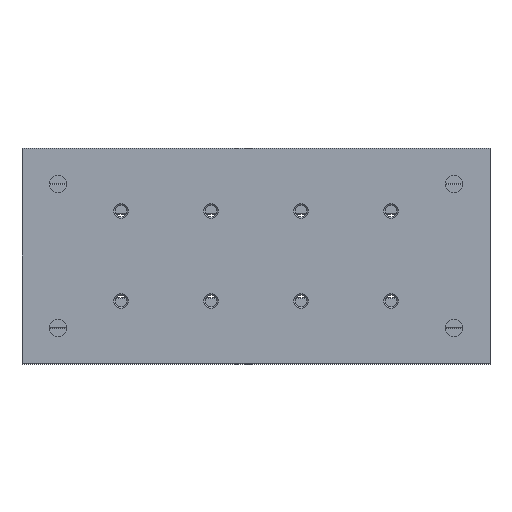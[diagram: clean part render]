
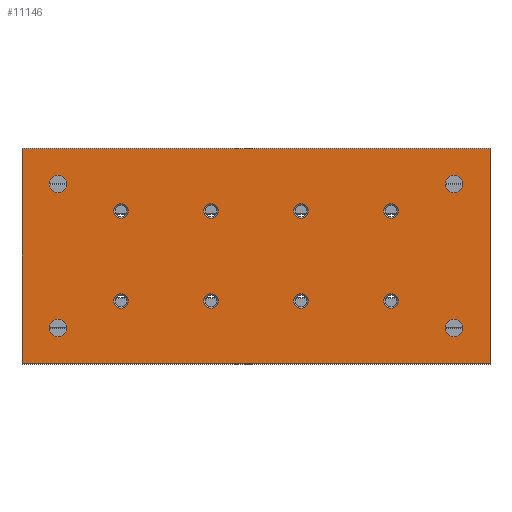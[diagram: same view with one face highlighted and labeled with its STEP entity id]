
A CAD part, front view. The second image highlights one B-rep face of the part: STEP entity #11146.
In plain terms, the highlighted planar face has unit normal (0, -1, 0).
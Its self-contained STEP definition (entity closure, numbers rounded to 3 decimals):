
#378=CIRCLE('',#11810,2.);
#379=CIRCLE('',#11811,2.);
#380=CIRCLE('',#11812,2.);
#381=CIRCLE('',#11813,2.);
#382=CIRCLE('',#11814,2.);
#383=CIRCLE('',#11815,2.);
#384=CIRCLE('',#11816,2.);
#385=CIRCLE('',#11817,2.);
#386=CIRCLE('',#11818,2.4);
#387=CIRCLE('',#11819,2.4);
#388=CIRCLE('',#11820,2.4);
#389=CIRCLE('',#11821,2.4);
#1134=ORIENTED_EDGE('',*,*,#4523,.F.);
#1135=ORIENTED_EDGE('',*,*,#4524,.F.);
#1136=ORIENTED_EDGE('',*,*,#4525,.F.);
#1137=ORIENTED_EDGE('',*,*,#4526,.F.);
#1138=ORIENTED_EDGE('',*,*,#4527,.F.);
#1139=ORIENTED_EDGE('',*,*,#4528,.F.);
#1140=ORIENTED_EDGE('',*,*,#4529,.F.);
#1141=ORIENTED_EDGE('',*,*,#4530,.F.);
#1142=ORIENTED_EDGE('',*,*,#4531,.T.);
#1143=ORIENTED_EDGE('',*,*,#4532,.F.);
#1144=ORIENTED_EDGE('',*,*,#4533,.F.);
#1145=ORIENTED_EDGE('',*,*,#4534,.F.);
#1146=ORIENTED_EDGE('',*,*,#4497,.T.);
#1147=ORIENTED_EDGE('',*,*,#4535,.F.);
#1148=ORIENTED_EDGE('',*,*,#4536,.F.);
#1149=ORIENTED_EDGE('',*,*,#4521,.T.);
#4497=EDGE_CURVE('',#6194,#6193,#7337,.T.);
#4521=EDGE_CURVE('',#6216,#6194,#7361,.T.);
#4523=EDGE_CURVE('',#6217,#6217,#378,.T.);
#4524=EDGE_CURVE('',#6218,#6218,#379,.T.);
#4525=EDGE_CURVE('',#6219,#6219,#380,.T.);
#4526=EDGE_CURVE('',#6220,#6220,#381,.T.);
#4527=EDGE_CURVE('',#6221,#6221,#382,.T.);
#4528=EDGE_CURVE('',#6222,#6222,#383,.T.);
#4529=EDGE_CURVE('',#6223,#6223,#384,.T.);
#4530=EDGE_CURVE('',#6224,#6224,#385,.T.);
#4531=EDGE_CURVE('',#6225,#6225,#386,.T.);
#4532=EDGE_CURVE('',#6226,#6226,#387,.T.);
#4533=EDGE_CURVE('',#6227,#6227,#388,.T.);
#4534=EDGE_CURVE('',#6228,#6228,#389,.T.);
#4535=EDGE_CURVE('',#6229,#6193,#7363,.T.);
#4536=EDGE_CURVE('',#6216,#6229,#7364,.T.);
#6193=VERTEX_POINT('',#16876);
#6194=VERTEX_POINT('',#16878);
#6216=VERTEX_POINT('',#16927);
#6217=VERTEX_POINT('',#16931);
#6218=VERTEX_POINT('',#16933);
#6219=VERTEX_POINT('',#16935);
#6220=VERTEX_POINT('',#16937);
#6221=VERTEX_POINT('',#16939);
#6222=VERTEX_POINT('',#16941);
#6223=VERTEX_POINT('',#16943);
#6224=VERTEX_POINT('',#16945);
#6225=VERTEX_POINT('',#16947);
#6226=VERTEX_POINT('',#16949);
#6227=VERTEX_POINT('',#16951);
#6228=VERTEX_POINT('',#16953);
#6229=VERTEX_POINT('',#16955);
#7337=LINE('',#16877,#8361);
#7361=LINE('',#16926,#8385);
#7363=LINE('',#16954,#8387);
#7364=LINE('',#16956,#8388);
#8361=VECTOR('',#13182,1000.);
#8385=VECTOR('',#13212,1000.);
#8387=VECTOR('',#13240,1000.);
#8388=VECTOR('',#13241,1000.);
#9341=EDGE_LOOP('',(#1134));
#9342=EDGE_LOOP('',(#1135));
#9343=EDGE_LOOP('',(#1136));
#9344=EDGE_LOOP('',(#1137));
#9345=EDGE_LOOP('',(#1138));
#9346=EDGE_LOOP('',(#1139));
#9347=EDGE_LOOP('',(#1140));
#9348=EDGE_LOOP('',(#1141));
#9349=EDGE_LOOP('',(#1142));
#9350=EDGE_LOOP('',(#1143));
#9351=EDGE_LOOP('',(#1144));
#9352=EDGE_LOOP('',(#1145));
#9353=EDGE_LOOP('',(#1146,#1147,#1148,#1149));
#10099=FACE_BOUND('',#9341,.T.);
#10100=FACE_BOUND('',#9342,.T.);
#10101=FACE_BOUND('',#9343,.T.);
#10102=FACE_BOUND('',#9344,.T.);
#10103=FACE_BOUND('',#9345,.T.);
#10104=FACE_BOUND('',#9346,.T.);
#10105=FACE_BOUND('',#9347,.T.);
#10106=FACE_BOUND('',#9348,.T.);
#10107=FACE_BOUND('',#9349,.T.);
#10108=FACE_BOUND('',#9350,.T.);
#10109=FACE_BOUND('',#9351,.T.);
#10110=FACE_BOUND('',#9352,.T.);
#10111=FACE_BOUND('',#9353,.T.);
#10857=PLANE('',#11809);
#11146=ADVANCED_FACE('',(#10099,#10100,#10101,#10102,#10103,#10104,#10105,
#10106,#10107,#10108,#10109,#10110,#10111),#10857,.F.);
#11809=AXIS2_PLACEMENT_3D('',#16929,#13214,#13215);
#11810=AXIS2_PLACEMENT_3D('',#16930,#13216,#13217);
#11811=AXIS2_PLACEMENT_3D('',#16932,#13218,#13219);
#11812=AXIS2_PLACEMENT_3D('',#16934,#13220,#13221);
#11813=AXIS2_PLACEMENT_3D('',#16936,#13222,#13223);
#11814=AXIS2_PLACEMENT_3D('',#16938,#13224,#13225);
#11815=AXIS2_PLACEMENT_3D('',#16940,#13226,#13227);
#11816=AXIS2_PLACEMENT_3D('',#16942,#13228,#13229);
#11817=AXIS2_PLACEMENT_3D('',#16944,#13230,#13231);
#11818=AXIS2_PLACEMENT_3D('',#16946,#13232,#13233);
#11819=AXIS2_PLACEMENT_3D('',#16948,#13234,#13235);
#11820=AXIS2_PLACEMENT_3D('',#16950,#13236,#13237);
#11821=AXIS2_PLACEMENT_3D('',#16952,#13238,#13239);
#13182=DIRECTION('',(0.,0.,-1.));
#13212=DIRECTION('',(-1.,0.,0.));
#13214=DIRECTION('',(0.,1.,0.));
#13215=DIRECTION('',(0.,0.,1.));
#13216=DIRECTION('',(0.,-1.,0.));
#13217=DIRECTION('',(0.,0.,-1.));
#13218=DIRECTION('',(0.,-1.,0.));
#13219=DIRECTION('',(0.,0.,-1.));
#13220=DIRECTION('',(0.,-1.,0.));
#13221=DIRECTION('',(0.,0.,-1.));
#13222=DIRECTION('',(0.,-1.,0.));
#13223=DIRECTION('',(0.,0.,-1.));
#13224=DIRECTION('',(0.,-1.,0.));
#13225=DIRECTION('',(0.,0.,-1.));
#13226=DIRECTION('',(0.,-1.,0.));
#13227=DIRECTION('',(0.,0.,-1.));
#13228=DIRECTION('',(0.,-1.,0.));
#13229=DIRECTION('',(0.,0.,-1.));
#13230=DIRECTION('',(0.,-1.,0.));
#13231=DIRECTION('',(0.,0.,-1.));
#13232=DIRECTION('',(0.,1.,0.));
#13233=DIRECTION('',(0.,0.,1.));
#13234=DIRECTION('',(0.,-1.,0.));
#13235=DIRECTION('',(0.,0.,-1.));
#13236=DIRECTION('',(0.,-1.,0.));
#13237=DIRECTION('',(0.,0.,-1.));
#13238=DIRECTION('',(0.,-1.,0.));
#13239=DIRECTION('',(0.,0.,-1.));
#13240=DIRECTION('',(-1.,0.,0.));
#13241=DIRECTION('',(0.,0.,-1.));
#16876=CARTESIAN_POINT('',(0.,0.,-29.85));
#16877=CARTESIAN_POINT('',(0.,0.,29.85));
#16878=CARTESIAN_POINT('',(0.,0.,29.85));
#16926=CARTESIAN_POINT('',(130.,0.,29.85));
#16927=CARTESIAN_POINT('',(130.,0.,29.85));
#16929=CARTESIAN_POINT('',(130.,0.,29.85));
#16930=CARTESIAN_POINT('',(27.5,0.,-12.5));
#16931=CARTESIAN_POINT('',(27.5,0.,-14.5));
#16932=CARTESIAN_POINT('',(27.5,0.,12.5));
#16933=CARTESIAN_POINT('',(27.5,0.,10.5));
#16934=CARTESIAN_POINT('',(102.5,0.,-12.5));
#16935=CARTESIAN_POINT('',(102.5,0.,-14.5));
#16936=CARTESIAN_POINT('',(102.5,0.,12.5));
#16937=CARTESIAN_POINT('',(102.5,0.,10.5));
#16938=CARTESIAN_POINT('',(77.5,0.,-12.5));
#16939=CARTESIAN_POINT('',(77.5,0.,-14.5));
#16940=CARTESIAN_POINT('',(77.5,0.,12.5));
#16941=CARTESIAN_POINT('',(77.5,0.,10.5));
#16942=CARTESIAN_POINT('',(52.5,0.,-12.5));
#16943=CARTESIAN_POINT('',(52.5,0.,-14.5));
#16944=CARTESIAN_POINT('',(52.5,0.,12.5));
#16945=CARTESIAN_POINT('',(52.5,0.,10.5));
#16946=CARTESIAN_POINT('',(120.,0.,20.));
#16947=CARTESIAN_POINT('',(120.,0.,22.4));
#16948=CARTESIAN_POINT('',(120.,0.,-20.));
#16949=CARTESIAN_POINT('',(120.,0.,-22.4));
#16950=CARTESIAN_POINT('',(10.,0.,-20.));
#16951=CARTESIAN_POINT('',(10.,0.,-22.4));
#16952=CARTESIAN_POINT('',(10.,0.,20.));
#16953=CARTESIAN_POINT('',(10.,0.,17.6));
#16954=CARTESIAN_POINT('',(130.,0.,-29.85));
#16955=CARTESIAN_POINT('',(130.,0.,-29.85));
#16956=CARTESIAN_POINT('',(130.,0.,29.85));
